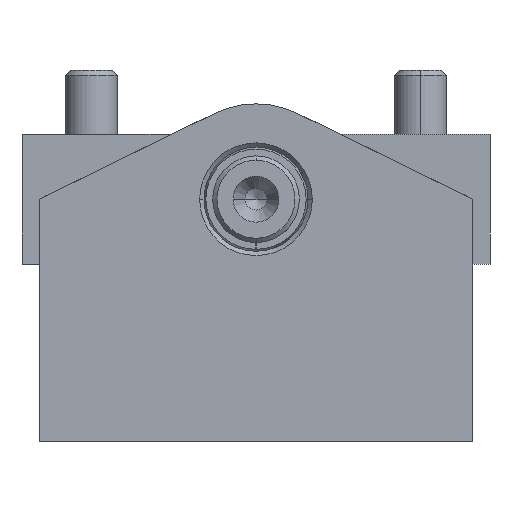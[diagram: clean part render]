
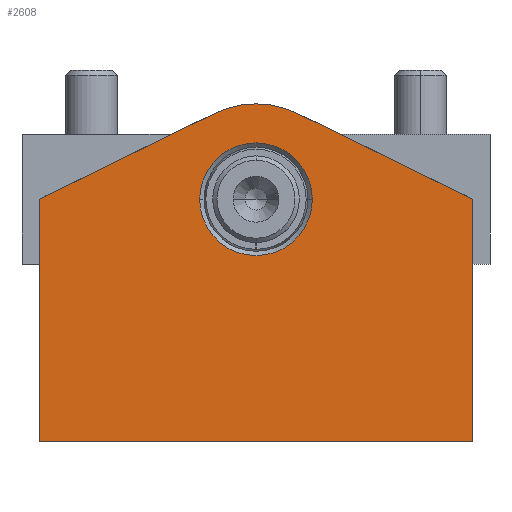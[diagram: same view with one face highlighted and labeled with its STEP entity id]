
A CAD part, front view. The second image highlights one B-rep face of the part: STEP entity #2608.
In plain terms, the highlighted planar face has unit normal (0, -1, 0).
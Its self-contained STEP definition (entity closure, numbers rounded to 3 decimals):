
#106 = CARTESIAN_POINT ( 'NONE',  ( 6.5, -35., -27.5 ) ) ;
#111 = DIRECTION ( 'NONE',  ( 1., 0., 0. ) ) ;
#157 = ORIENTED_EDGE ( 'NONE', *, *, #371, .T. ) ;
#176 = CARTESIAN_POINT ( 'NONE',  ( 0., -35., -27.5 ) ) ;
#232 = DIRECTION ( 'NONE',  ( 1., 0., 0. ) ) ;
#361 = VERTEX_POINT ( 'NONE', #2702 ) ;
#371 = EDGE_CURVE ( 'NONE', #2828, #361, #4506, .T. ) ;
#379 = ORIENTED_EDGE ( 'NONE', *, *, #5042, .T. ) ;
#464 = CARTESIAN_POINT ( 'NONE',  ( -25., -35., -55.5 ) ) ;
#487 = VECTOR ( 'NONE', #3596, 1000. ) ;
#512 = VERTEX_POINT ( 'NONE', #2503 ) ;
#690 = DIRECTION ( 'NONE',  ( -0.898, 0., 0.44 ) ) ;
#722 = CARTESIAN_POINT ( 'NONE',  ( 4.84, -35., -17.622 ) ) ;
#812 = CIRCLE ( 'NONE', #5370, 6.5 ) ;
#1079 = CARTESIAN_POINT ( 'NONE',  ( -25., -35., -27.5 ) ) ;
#1180 = LINE ( 'NONE', #1079, #487 ) ;
#1305 = ORIENTED_EDGE ( 'NONE', *, *, #3423, .F. ) ;
#1307 = CARTESIAN_POINT ( 'NONE',  ( 25., -35., -55.5 ) ) ;
#1383 = VERTEX_POINT ( 'NONE', #1482 ) ;
#1448 = ORIENTED_EDGE ( 'NONE', *, *, #4377, .T. ) ;
#1451 = FACE_BOUND ( 'NONE', #5655, .T. ) ;
#1460 = ORIENTED_EDGE ( 'NONE', *, *, #4040, .F. ) ;
#1482 = CARTESIAN_POINT ( 'NONE',  ( -25., -35., -27.5 ) ) ;
#1714 = LINE ( 'NONE', #722, #3911 ) ;
#1774 = LINE ( 'NONE', #1307, #5247 ) ;
#1777 = DIRECTION ( 'NONE',  ( 0., -1., 0. ) ) ;
#1971 = CARTESIAN_POINT ( 'NONE',  ( 25., -35., -27.5 ) ) ;
#1980 = DIRECTION ( 'NONE',  ( -1., 0., 0. ) ) ;
#2292 = EDGE_CURVE ( 'NONE', #5204, #2828, #1714, .T. ) ;
#2321 = CIRCLE ( 'NONE', #3897, 6.5 ) ;
#2482 = PLANE ( 'NONE',  #5232 ) ;
#2502 = DIRECTION ( 'NONE',  ( 0., 0., 1. ) ) ;
#2503 = CARTESIAN_POINT ( 'NONE',  ( -25., -35., -55.5 ) ) ;
#2561 = LINE ( 'NONE', #464, #6186 ) ;
#2608 = ADVANCED_FACE ( 'NONE', ( #1451, #3465 ), #2482, .F. ) ;
#2673 = VERTEX_POINT ( 'NONE', #4082 ) ;
#2702 = CARTESIAN_POINT ( 'NONE',  ( -4.84, -35., -17.622 ) ) ;
#2828 = VERTEX_POINT ( 'NONE', #3678 ) ;
#2896 = LINE ( 'NONE', #3487, #6292 ) ;
#2957 = EDGE_LOOP ( 'NONE', ( #379, #4023, #5379, #157, #5217, #1448 ) ) ;
#3031 = DIRECTION ( 'NONE',  ( 0., -1., 0. ) ) ;
#3270 = VERTEX_POINT ( 'NONE', #106 ) ;
#3423 = EDGE_CURVE ( 'NONE', #3270, #4760, #812, .T. ) ;
#3465 = FACE_OUTER_BOUND ( 'NONE', #2957, .T. ) ;
#3487 = CARTESIAN_POINT ( 'NONE',  ( 25., -35., -27.5 ) ) ;
#3596 = DIRECTION ( 'NONE',  ( -0.898, 0., -0.44 ) ) ;
#3678 = CARTESIAN_POINT ( 'NONE',  ( 4.84, -35., -17.622 ) ) ;
#3866 = CARTESIAN_POINT ( 'NONE',  ( 0., -35., -27.5 ) ) ;
#3897 = AXIS2_PLACEMENT_3D ( 'NONE', #176, #3031, #111 ) ;
#3911 = VECTOR ( 'NONE', #690, 1000. ) ;
#4023 = ORIENTED_EDGE ( 'NONE', *, *, #5237, .T. ) ;
#4040 = EDGE_CURVE ( 'NONE', #4760, #3270, #2321, .T. ) ;
#4082 = CARTESIAN_POINT ( 'NONE',  ( 25., -35., -55.5 ) ) ;
#4290 = CARTESIAN_POINT ( 'NONE',  ( 0., -35., -27.5 ) ) ;
#4377 = EDGE_CURVE ( 'NONE', #1383, #512, #2561, .T. ) ;
#4399 = AXIS2_PLACEMENT_3D ( 'NONE', #4290, #1777, #5808 ) ;
#4499 = CARTESIAN_POINT ( 'NONE',  ( 0., -35., -39.382 ) ) ;
#4506 = CIRCLE ( 'NONE', #4399, 11. ) ;
#4529 = CARTESIAN_POINT ( 'NONE',  ( -6.5, -35., -27.5 ) ) ;
#4572 = DIRECTION ( 'NONE',  ( 0., 0., -1. ) ) ;
#4760 = VERTEX_POINT ( 'NONE', #4529 ) ;
#4820 = DIRECTION ( 'NONE',  ( 1., 0., 0. ) ) ;
#4882 = EDGE_CURVE ( 'NONE', #361, #1383, #1180, .T. ) ;
#5042 = EDGE_CURVE ( 'NONE', #512, #2673, #1774, .T. ) ;
#5204 = VERTEX_POINT ( 'NONE', #1971 ) ;
#5217 = ORIENTED_EDGE ( 'NONE', *, *, #4882, .T. ) ;
#5232 = AXIS2_PLACEMENT_3D ( 'NONE', #4499, #6499, #1980 ) ;
#5237 = EDGE_CURVE ( 'NONE', #2673, #5204, #2896, .T. ) ;
#5247 = VECTOR ( 'NONE', #4820, 1000. ) ;
#5370 = AXIS2_PLACEMENT_3D ( 'NONE', #3866, #6278, #232 ) ;
#5379 = ORIENTED_EDGE ( 'NONE', *, *, #2292, .T. ) ;
#5655 = EDGE_LOOP ( 'NONE', ( #1305, #1460 ) ) ;
#5808 = DIRECTION ( 'NONE',  ( -0.44, 0., 0.898 ) ) ;
#6186 = VECTOR ( 'NONE', #4572, 1000. ) ;
#6278 = DIRECTION ( 'NONE',  ( 0., -1., 0. ) ) ;
#6292 = VECTOR ( 'NONE', #2502, 1000. ) ;
#6499 = DIRECTION ( 'NONE',  ( 0., 1., 0. ) ) ;
